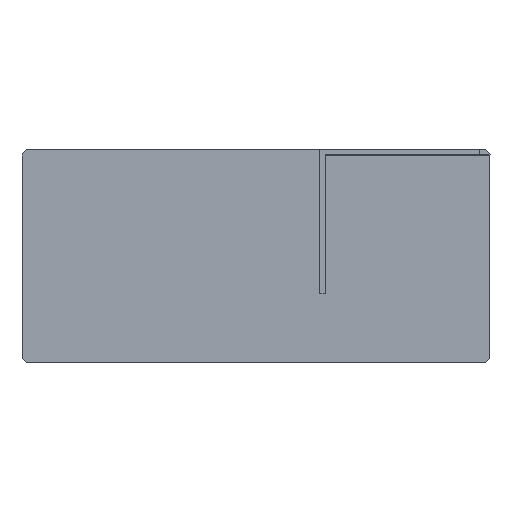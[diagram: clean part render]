
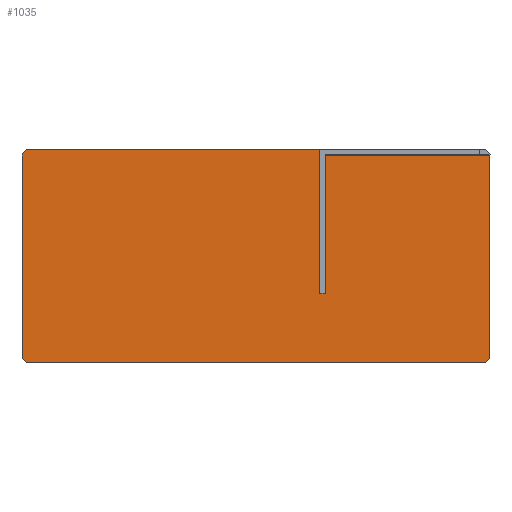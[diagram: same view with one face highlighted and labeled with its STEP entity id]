
A CAD part, top view. The second image highlights one B-rep face of the part: STEP entity #1035.
In plain terms, the highlighted planar face has unit normal (0, 0, 1).
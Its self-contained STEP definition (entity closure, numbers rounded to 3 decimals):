
#42=PLANE('',#1113);
#92=FACE_OUTER_BOUND('',#155,.T.);
#155=EDGE_LOOP('',(#740,#741,#742,#743,#744,#745,#746,#747,#748,#749,#750));
#228=LINE('',#1673,#322);
#235=LINE('',#1689,#329);
#237=LINE('',#1693,#331);
#240=LINE('',#1703,#334);
#241=LINE('',#1705,#335);
#242=LINE('',#1707,#336);
#243=LINE('',#1709,#337);
#244=LINE('',#1711,#338);
#245=LINE('',#1713,#339);
#246=LINE('',#1715,#340);
#247=LINE('',#1716,#341);
#322=VECTOR('',#1239,10.);
#329=VECTOR('',#1252,10.);
#331=VECTOR('',#1256,10.);
#334=VECTOR('',#1265,10.);
#335=VECTOR('',#1266,10.);
#336=VECTOR('',#1267,10.);
#337=VECTOR('',#1268,10.);
#338=VECTOR('',#1269,10.);
#339=VECTOR('',#1270,10.);
#340=VECTOR('',#1271,10.);
#341=VECTOR('',#1272,10.);
#454=VERTEX_POINT('',#1670);
#455=VERTEX_POINT('',#1672);
#461=VERTEX_POINT('',#1688);
#462=VERTEX_POINT('',#1692);
#466=VERTEX_POINT('',#1702);
#467=VERTEX_POINT('',#1704);
#468=VERTEX_POINT('',#1706);
#469=VERTEX_POINT('',#1708);
#470=VERTEX_POINT('',#1710);
#471=VERTEX_POINT('',#1712);
#472=VERTEX_POINT('',#1714);
#558=EDGE_CURVE('',#455,#454,#228,.T.);
#566=EDGE_CURVE('',#455,#461,#235,.T.);
#568=EDGE_CURVE('',#462,#461,#237,.T.);
#573=EDGE_CURVE('',#454,#466,#240,.T.);
#574=EDGE_CURVE('',#466,#467,#241,.T.);
#575=EDGE_CURVE('',#467,#468,#242,.T.);
#576=EDGE_CURVE('',#468,#469,#243,.T.);
#577=EDGE_CURVE('',#469,#470,#244,.T.);
#578=EDGE_CURVE('',#471,#470,#245,.T.);
#579=EDGE_CURVE('',#471,#472,#246,.T.);
#580=EDGE_CURVE('',#462,#472,#247,.T.);
#740=ORIENTED_EDGE('',*,*,#566,.F.);
#741=ORIENTED_EDGE('',*,*,#558,.T.);
#742=ORIENTED_EDGE('',*,*,#573,.T.);
#743=ORIENTED_EDGE('',*,*,#574,.T.);
#744=ORIENTED_EDGE('',*,*,#575,.T.);
#745=ORIENTED_EDGE('',*,*,#576,.T.);
#746=ORIENTED_EDGE('',*,*,#577,.T.);
#747=ORIENTED_EDGE('',*,*,#578,.F.);
#748=ORIENTED_EDGE('',*,*,#579,.T.);
#749=ORIENTED_EDGE('',*,*,#580,.F.);
#750=ORIENTED_EDGE('',*,*,#568,.T.);
#1035=ADVANCED_FACE('',(#92),#42,.F.);
#1113=AXIS2_PLACEMENT_3D('',#1701,#1263,#1264);
#1239=DIRECTION('',(0.,1.,0.));
#1252=DIRECTION('',(-0.707,-0.707,0.));
#1256=DIRECTION('',(1.,0.,0.));
#1263=DIRECTION('center_axis',(0.,0.,-1.));
#1264=DIRECTION('ref_axis',(-1.,0.,0.));
#1265=DIRECTION('',(-1.,0.,0.));
#1266=DIRECTION('',(0.,-1.,0.));
#1267=DIRECTION('',(-1.,0.,0.));
#1268=DIRECTION('',(0.,1.,0.));
#1269=DIRECTION('',(-1.,0.,0.));
#1270=DIRECTION('',(0.707,0.707,0.));
#1271=DIRECTION('',(0.,-1.,0.));
#1272=DIRECTION('',(-0.707,0.707,0.));
#1670=CARTESIAN_POINT('',(86.499,105.324,9.994));
#1672=CARTESIAN_POINT('',(86.499,9.824,9.994));
#1673=CARTESIAN_POINT('',(86.499,7.824,9.994));
#1688=CARTESIAN_POINT('',(84.499,7.824,9.994));
#1689=CARTESIAN_POINT('',(70.499,-6.176,9.994));
#1692=CARTESIAN_POINT('',(-131.501,7.824,9.994));
#1693=CARTESIAN_POINT('',(-133.501,7.824,9.994));
#1701=CARTESIAN_POINT('Origin',(-23.501,57.824,9.994));
#1702=CARTESIAN_POINT('',(8.999,105.324,9.994));
#1703=CARTESIAN_POINT('',(-7.251,105.324,9.994));
#1704=CARTESIAN_POINT('',(8.999,40.324,9.994));
#1705=CARTESIAN_POINT('',(8.999,49.074,9.994));
#1706=CARTESIAN_POINT('',(6.499,40.324,9.994));
#1707=CARTESIAN_POINT('',(-8.501,40.324,9.994));
#1708=CARTESIAN_POINT('',(6.499,107.824,9.994));
#1709=CARTESIAN_POINT('',(6.499,82.824,9.994));
#1710=CARTESIAN_POINT('',(-131.501,107.824,9.994));
#1711=CARTESIAN_POINT('',(86.499,107.824,9.994));
#1712=CARTESIAN_POINT('',(-133.501,105.824,9.994));
#1713=CARTESIAN_POINT('',(-117.501,121.824,9.994));
#1714=CARTESIAN_POINT('',(-133.501,9.824,9.994));
#1715=CARTESIAN_POINT('',(-133.501,107.824,9.994));
#1716=CARTESIAN_POINT('',(-117.501,-6.176,9.994));
